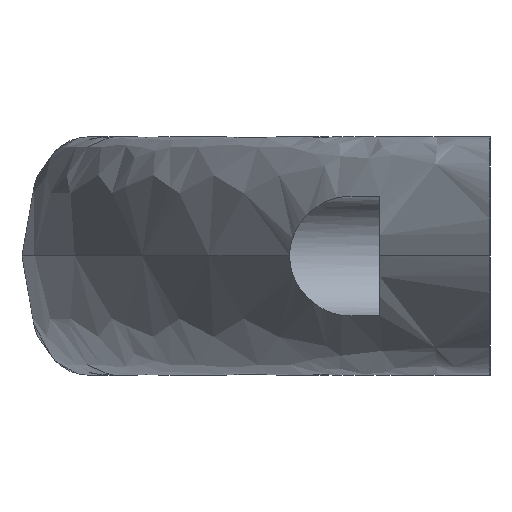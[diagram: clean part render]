
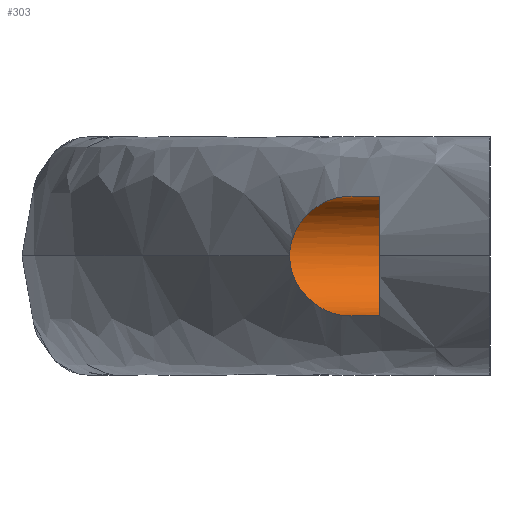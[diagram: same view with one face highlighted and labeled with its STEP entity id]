
A CAD part, left-side view. The second image highlights one B-rep face of the part: STEP entity #303.
In plain terms, the highlighted cylindrical face has radius 6.5 mm (diameter 13 mm), a partial arc.
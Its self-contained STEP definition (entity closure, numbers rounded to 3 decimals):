
#21 = VERTEX_POINT ( 'NONE', #254 ) ;
#50 = VERTEX_POINT ( 'NONE', #416 ) ;
#68 = EDGE_CURVE ( 'NONE', #50, #21, #1181, .T. ) ;
#92 = EDGE_CURVE ( 'NONE', #21, #186, #1030, .T. ) ;
#115 = VERTEX_POINT ( 'NONE', #1110 ) ;
#186 = VERTEX_POINT ( 'NONE', #1666 ) ;
#254 = CARTESIAN_POINT ( 'NONE',  ( -89.5, 21.81, 0. ) ) ;
#257 = ORIENTED_EDGE ( 'NONE', *, *, #342, .T. ) ;
#278 = VERTEX_POINT ( 'NONE', #1814 ) ;
#292 = EDGE_LOOP ( 'NONE', ( #336, #302, #381, #257, #384 ) ) ;
#302 = ORIENTED_EDGE ( 'NONE', *, *, #92, .T. ) ;
#303 = ADVANCED_FACE ( 'NONE', ( #1807 ), #1808, .F. ) ;
#336 = ORIENTED_EDGE ( 'NONE', *, *, #68, .T. ) ;
#342 = EDGE_CURVE ( 'NONE', #115, #278, #1794, .T. ) ;
#379 = EDGE_CURVE ( 'NONE', #50, #278, #1833, .T. ) ;
#381 = ORIENTED_EDGE ( 'NONE', *, *, #382, .T. ) ;
#382 = EDGE_CURVE ( 'NONE', #186, #115, #1830, .T. ) ;
#384 = ORIENTED_EDGE ( 'NONE', *, *, #379, .F. ) ;
#416 = CARTESIAN_POINT ( 'NONE',  ( -96., 15.473, 6.5 ) ) ;
#1023 = CARTESIAN_POINT ( 'NONE',  ( -89.5, 21.81, 0. ) ) ;
#1024 = CARTESIAN_POINT ( 'NONE',  ( -89.5, 21.81, 0.256 ) ) ;
#1025 = CARTESIAN_POINT ( 'NONE',  ( -89.62, 21.682, 1.266 ) ) ;
#1026 = CARTESIAN_POINT ( 'NONE',  ( -89.794, 21.496, 1.995 ) ) ;
#1027 = CARTESIAN_POINT ( 'NONE',  ( -93.376, 17.827, 5.959 ) ) ;
#1030 = B_SPLINE_CURVE_WITH_KNOTS ( 'NONE', 3,
 ( #1055, #1039, #1038, #1037, #1036, #1174, #1173, #1172, #1171, #1170, #1169, #1168, #1167, #1166, #1077, #1076, #1075, #1074, #1073, #1072, #1071, #1070, #1069, #1092 ),
 .UNSPECIFIED., .F., .F.,
 ( 4, 2, 2, 2, 2, 2, 2, 2, 2, 2, 2, 4 ),
 ( 0.012, 0.013, 0.014, 0.015, 0.015, 0.017, 0.018, 0.019, 0.02, 0.021, 0.023, 0.024 ),
 .UNSPECIFIED. ) ;
#1032 = CARTESIAN_POINT ( 'NONE',  ( -96., 15.473, 6.5 ) ) ;
#1033 = CARTESIAN_POINT ( 'NONE',  ( -89.515, 21.794, 0.51 ) ) ;
#1034 = CARTESIAN_POINT ( 'NONE',  ( -89.575, 21.73, 1.014 ) ) ;
#1036 = CARTESIAN_POINT ( 'NONE',  ( -89.62, 21.682, -1.269 ) ) ;
#1037 = CARTESIAN_POINT ( 'NONE',  ( -89.576, 21.729, -1.021 ) ) ;
#1038 = CARTESIAN_POINT ( 'NONE',  ( -89.515, 21.794, -0.515 ) ) ;
#1039 = CARTESIAN_POINT ( 'NONE',  ( -89.5, 21.81, -0.255 ) ) ;
#1040 = CARTESIAN_POINT ( 'NONE',  ( -91.588, 19.611, 4.777 ) ) ;
#1041 = CARTESIAN_POINT ( 'NONE',  ( -92.044, 19.145, 5.173 ) ) ;
#1055 = CARTESIAN_POINT ( 'NONE',  ( -89.5, 21.81, 0. ) ) ;
#1066 = CARTESIAN_POINT ( 'NONE',  ( -93.028, 18.165, 5.793 ) ) ;
#1069 = CARTESIAN_POINT ( 'NONE',  ( -95.605, 15.802, -6.5 ) ) ;
#1070 = CARTESIAN_POINT ( 'NONE',  ( -95.218, 16.136, -6.464 ) ) ;
#1071 = CARTESIAN_POINT ( 'NONE',  ( -94.459, 16.812, -6.327 ) ) ;
#1072 = CARTESIAN_POINT ( 'NONE',  ( -94.089, 17.154, -6.224 ) ) ;
#1073 = CARTESIAN_POINT ( 'NONE',  ( -93.376, 17.828, -5.959 ) ) ;
#1074 = CARTESIAN_POINT ( 'NONE',  ( -93.031, 18.162, -5.795 ) ) ;
#1075 = CARTESIAN_POINT ( 'NONE',  ( -92.531, 18.656, -5.5 ) ) ;
#1076 = CARTESIAN_POINT ( 'NONE',  ( -92.367, 18.82, -5.393 ) ) ;
#1077 = CARTESIAN_POINT ( 'NONE',  ( -92.045, 19.144, -5.162 ) ) ;
#1078 = CARTESIAN_POINT ( 'NONE',  ( -91.151, 20.062, 4.334 ) ) ;
#1079 = CARTESIAN_POINT ( 'NONE',  ( -91.439, 19.763, 4.636 ) ) ;
#1082 = CARTESIAN_POINT ( 'NONE',  ( -94.097, 17.146, 6.227 ) ) ;
#1083 = CARTESIAN_POINT ( 'NONE',  ( -95.218, 16.135, 6.464 ) ) ;
#1092 = CARTESIAN_POINT ( 'NONE',  ( -96., 15.473, -6.5 ) ) ;
#1093 = CARTESIAN_POINT ( 'NONE',  ( -90.613, 20.626, 3.662 ) ) ;
#1094 = CARTESIAN_POINT ( 'NONE',  ( -91.011, 20.209, 4.172 ) ) ;
#1110 = CARTESIAN_POINT ( 'NONE',  ( -96., 12., -6.5 ) ) ;
#1128 = CARTESIAN_POINT ( 'NONE',  ( -89.96, 21.318, 2.447 ) ) ;
#1129 = CARTESIAN_POINT ( 'NONE',  ( -90.373, 20.879, 3.288 ) ) ;
#1166 = CARTESIAN_POINT ( 'NONE',  ( -91.886, 19.305, -5.037 ) ) ;
#1167 = CARTESIAN_POINT ( 'NONE',  ( -91.428, 19.774, -4.638 ) ) ;
#1168 = CARTESIAN_POINT ( 'NONE',  ( -91.142, 20.071, -4.34 ) ) ;
#1169 = CARTESIAN_POINT ( 'NONE',  ( -90.614, 20.624, -3.664 ) ) ;
#1170 = CARTESIAN_POINT ( 'NONE',  ( -90.371, 20.882, -3.282 ) ) ;
#1171 = CARTESIAN_POINT ( 'NONE',  ( -90.065, 21.207, -2.66 ) ) ;
#1172 = CARTESIAN_POINT ( 'NONE',  ( -89.972, 21.306, -2.444 ) ) ;
#1173 = CARTESIAN_POINT ( 'NONE',  ( -89.808, 21.481, -1.991 ) ) ;
#1174 = CARTESIAN_POINT ( 'NONE',  ( -89.736, 21.558, -1.753 ) ) ;
#1175 = CARTESIAN_POINT ( 'NONE',  ( -95.604, 15.802, 6.5 ) ) ;
#1180 = CARTESIAN_POINT ( 'NONE',  ( -94.465, 16.807, 6.328 ) ) ;
#1181 = B_SPLINE_CURVE_WITH_KNOTS ( 'NONE', 3,
 ( #1032, #1175, #1083, #1180, #1082, #1027, #1066, #1182, #1041, #1040, #1079, #1078, #1094, #1093, #1129, #1128, #1026, #1025, #1034, #1033, #1024, #1023 ),
 .UNSPECIFIED., .F., .F.,
 ( 4, 2, 2, 2, 2, 2, 2, 2, 2, 2, 4 ),
 ( 0., 0.002, 0.003, 0.005, 0.006, 0.007, 0.008, 0.009, 0.011, 0.011, 0.012 ),
 .UNSPECIFIED. ) ;
#1182 = CARTESIAN_POINT ( 'NONE',  ( -92.362, 18.823, 5.4 ) ) ;
#1666 = CARTESIAN_POINT ( 'NONE',  ( -96., 15.473, -6.5 ) ) ;
#1788 = DIRECTION ( 'NONE',  ( 0., 0., 1. ) ) ;
#1789 = DIRECTION ( 'NONE',  ( 0., -1., 0. ) ) ;
#1790 = CARTESIAN_POINT ( 'NONE',  ( -96., 12., 0. ) ) ;
#1793 = DIRECTION ( 'NONE',  ( 0., 0., -1. ) ) ;
#1794 = CIRCLE ( 'NONE', #1797, 6.5 ) ;
#1797 = AXIS2_PLACEMENT_3D ( 'NONE', #1790, #1789, #1788 ) ;
#1800 = AXIS2_PLACEMENT_3D ( 'NONE', #1811, #1810, #1793 ) ;
#1807 = FACE_OUTER_BOUND ( 'NONE', #292, .T. ) ;
#1808 = CYLINDRICAL_SURFACE ( 'NONE', #1800, 6.5 ) ;
#1810 = DIRECTION ( 'NONE',  ( 0., -1., 0. ) ) ;
#1811 = CARTESIAN_POINT ( 'NONE',  ( -96., 51.551, 0. ) ) ;
#1814 = CARTESIAN_POINT ( 'NONE',  ( -96., 12., 6.5 ) ) ;
#1824 = DIRECTION ( 'NONE',  ( 0., -1., 0. ) ) ;
#1825 = VECTOR ( 'NONE', #1824, 1000. ) ;
#1826 = DIRECTION ( 'NONE',  ( 0., -1., 0. ) ) ;
#1827 = VECTOR ( 'NONE', #1826, 1000. ) ;
#1828 = CARTESIAN_POINT ( 'NONE',  ( -96., 51.551, 6.5 ) ) ;
#1829 = CARTESIAN_POINT ( 'NONE',  ( -96., 51.551, -6.5 ) ) ;
#1830 = LINE ( 'NONE', #1829, #1825 ) ;
#1833 = LINE ( 'NONE', #1828, #1827 ) ;
